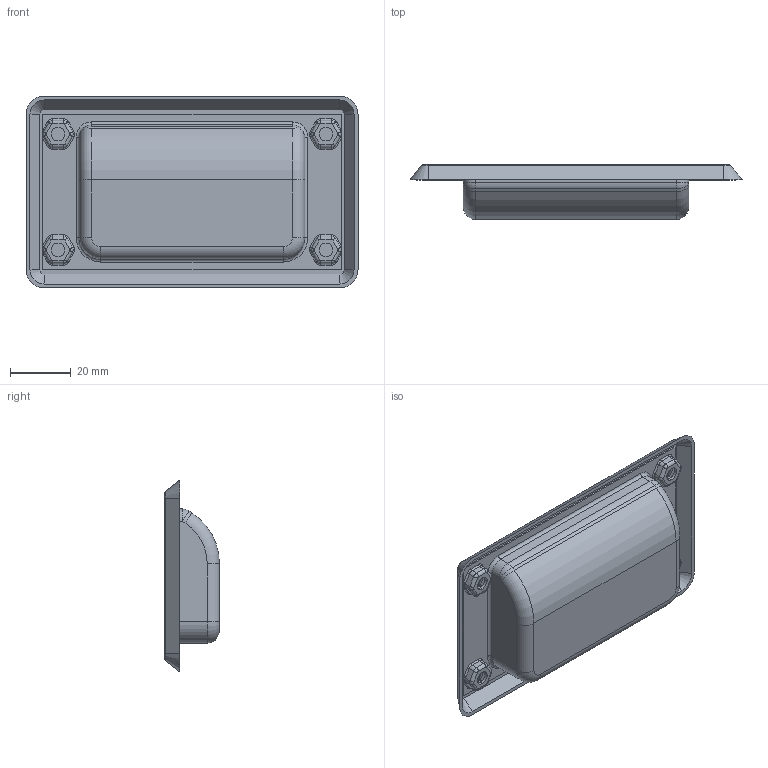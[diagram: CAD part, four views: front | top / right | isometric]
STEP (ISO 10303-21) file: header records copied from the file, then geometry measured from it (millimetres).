
FILE_DESCRIPTION (( 'STEP AP203' ), '1' );
FILE_NAME ('SK4-028-4.STEP', '2018-11-02T05:20:22', ( 'admin' ), ( 'Microsoft' ), 'SwSTEP 2.0', 'SolidWorks 2015', '' );
FILE_SCHEMA (( 'CONFIG_CONTROL_DESIGN' ));
Length unit declared in the file: millimetre
Products named in the file (3): SK4-028-4; SK4-028-4囀
Assembly tree (2 placements, depth 2):
  SK4-028-4
    SK4-028-4
    SK4-028-4囀
Bounding box: 109 x 18 x 63 mm (x, y, z)
Volume: 10148.9 mm3; surface area: 28691.7 mm2
Topology: 2 solids, 2 shells, 395 faces, 944 edges, 560 vertices
Faces by surface type: cylinder 165, plane 110, torus 84, bspline 24, cone 8, sphere 4
Entity records: 12307 total; most frequent: CARTESIAN_POINT 2730, DIRECTION 2090, ORIENTED_EDGE 1888, EDGE_CURVE 944, AXIS2_PLACEMENT_3D 816, VERTEX_POINT 560, VECTOR 458, LINE 458
